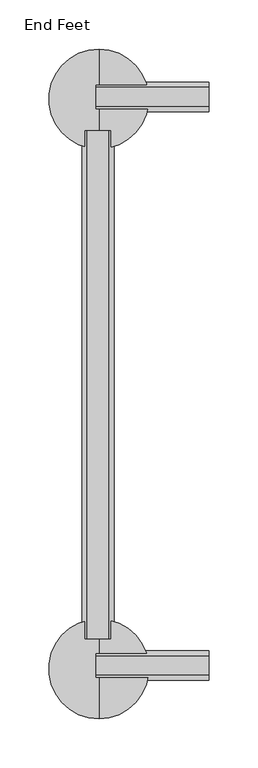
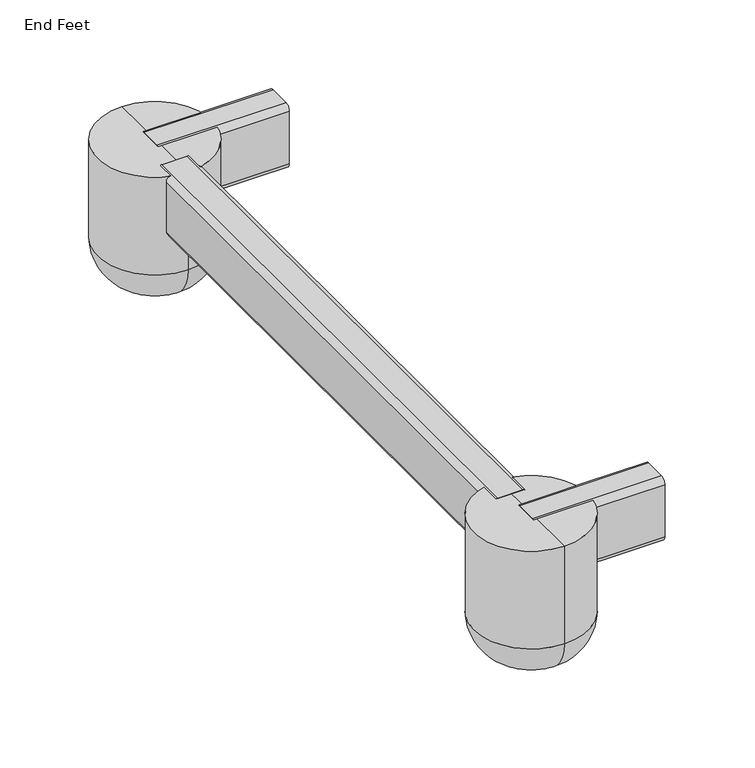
"""IFC4 building model written with IfcOpenShell, lengths in millimetres: furniture geometry, Coalesse_AM_Ensemble_Chaise_EndFeet : End Feet."""

from ifc_helpers import new_model, si_unit, point, frame, frame_2d, origin, place, context, project, spatial, polyline, circle_curve, ellipse_curve, trimmed, segment, composite_curve, outline, extrude, source, transform, mapped, element, save
from ifc_brep_helpers import plane_surface, cylinder_surface, revolved_surface, advanced_brep


def end_feet_1759f682(model_context):
    return source(origin(), model_context, "Body", "SolidModel", [
        extrude(outline(composite_curve([segment(polyline([(108.865872, 130.0907271), (128.9876575, 130.0907271)]), True, "CONTINUOUS"), segment(trimmed(circle_curve(frame_2d((128.9876575, 125.0107271)), 5.08), [point((128.9876575, 130.0907271))], [point((134.0676575, 125.0107271))], False, "CARTESIAN"), True, "CONTINUOUS"), segment(polyline([(134.0676575, 125.0107271), (134.0676575, 75.5475648)]), True, "CONTINUOUS"), segment(trimmed(circle_curve(frame_2d((129.0980339, 75.5475648)), 4.9696236), [point((134.0676575, 75.5475648))], [point((129.0980339, 70.5779413))], False, "CARTESIAN"), True, "CONTINUOUS"), segment(polyline([(129.0980339, 70.5779413), (108.865872, 70.5779413)]), True, "CONTINUOUS"), segment(trimmed(circle_curve(frame_2d((108.865872, 75.6579413)), 5.08), [point((108.865872, 70.5779413))], [point((103.785872, 75.6579413))], False, "CARTESIAN"), True, "CONTINUOUS"), segment(polyline([(103.785872, 75.6579413), (103.785872, 125.0107271)]), True, "CONTINUOUS"), segment(trimmed(circle_curve(frame_2d((108.865872, 125.0107271)), 5.08), [point((103.785872, 125.0107271))], [point((108.865872, 130.0907271))], False, "CARTESIAN"), True, "CONTINUOUS")], self_intersect=False)), frame((88.0572759, 0.0, 0.0), z_axis=(1.0, 0.0, 0.0), x_axis=(0.0, 1.0, 0.0)), (0.0, 0.0, 1.0), 115.1427241),
        extrude(outline(composite_curve([segment(polyline([(688.6735965, 130.0907271), (708.795382, 130.0907271)]), True, "CONTINUOUS"), segment(trimmed(circle_curve(frame_2d((708.795382, 125.0107271)), 5.08), [point((708.795382, 130.0907271))], [point((713.875382, 125.0107271))], False, "CARTESIAN"), True, "CONTINUOUS"), segment(polyline([(713.875382, 125.0107271), (713.875382, 75.5475648)]), True, "CONTINUOUS"), segment(trimmed(circle_curve(frame_2d((708.9057584, 75.5475648)), 4.9696236), [point((713.875382, 75.5475648))], [point((708.9057584, 70.5779413))], False, "CARTESIAN"), True, "CONTINUOUS"), segment(polyline([(708.9057584, 70.5779413), (688.6735965, 70.5779413)]), True, "CONTINUOUS"), segment(trimmed(circle_curve(frame_2d((688.6735965, 75.6579413)), 5.08), [point((688.6735965, 70.5779413))], [point((683.5935965, 75.6579413))], False, "CARTESIAN"), True, "CONTINUOUS"), segment(polyline([(683.5935965, 75.6579413), (683.5935965, 125.0107271)]), True, "CONTINUOUS"), segment(trimmed(circle_curve(frame_2d((688.6735965, 125.0107271)), 5.08), [point((683.5935965, 125.0107271))], [point((688.6735965, 130.0907271))], False, "CARTESIAN"), True, "CONTINUOUS")], self_intersect=False)), frame((88.0572759, 0.0, 0.0), z_axis=(1.0, 0.0, 0.0), x_axis=(0.0, 1.0, 0.0)), (0.0, 0.0, 1.0), 115.1427241),
        extrude(outline(composite_curve([segment(polyline([(73.0866867, 78.711375), (73.0866867, 101.0575274)]), True, "CONTINUOUS"), segment(trimmed(circle_curve(frame_2d((78.1666867, 101.0575274)), 5.08), [point((73.0866867, 101.0575274))], [point((78.1666867, 106.1375274))], False, "CARTESIAN"), True, "CONTINUOUS"), segment(polyline([(78.1666867, 106.1375274), (125.0107271, 106.1375274)]), True, "CONTINUOUS"), segment(trimmed(circle_curve(frame_2d((125.0107271, 101.0575274)), 5.08), [point((125.0107271, 106.1375274))], [point((130.0907271, 101.0575274))], False, "CARTESIAN"), True, "CONTINUOUS"), segment(polyline([(130.0907271, 101.0575274), (130.0907271, 78.711375)]), True, "CONTINUOUS"), segment(trimmed(circle_curve(frame_2d((125.0107271, 78.711375)), 5.08), [point((130.0907271, 78.711375))], [point((125.0107271, 73.631375))], False, "CARTESIAN"), True, "CONTINUOUS"), segment(polyline([(125.0107271, 73.631375), (78.1666867, 73.631375)]), True, "CONTINUOUS"), segment(trimmed(circle_curve(frame_2d((78.1666867, 78.711375)), 5.08), [point((78.1666867, 73.631375))], [point((73.0866867, 78.711375))], False, "CARTESIAN"), True, "CONTINUOUS")], self_intersect=False)), frame((0.0, 146.0852096, 0.0), z_axis=(0.0, 1.0, 0.0), x_axis=(0.0, 0.0, 1.0)), (0.0, 0.0, 1.0), 518.3433707),
        advanced_brep(
        [(90.839512, 747.4877706, 130.0907271), (90.839512, 645.5490367, 130.0907271), (90.839512, 696.5184037, 130.0907271), (90.839512, 747.4877706, 38.1), (90.839512, 645.5490367, 38.1), (90.839512, 709.3877706, 0.0), (90.839512, 683.6490367, 0.0), (90.839512, 696.5184037, 0.0)],
        [
            (0, 1, circle_curve(frame((90.839512, 696.5184037, 130.0907271), z_axis=(0.0, 0.0, 1.0), x_axis=(0.0, -1.0, 0.0)), 50.969367)),
            (1, 2),
            (2, 0),
            (1, 0, circle_curve(frame((90.839512, 696.5184037, 130.0907271), z_axis=(0.0, 0.0, 1.0), x_axis=(0.0, -1.0, 0.0)), 50.969367)),
            (3, 4, circle_curve(frame((90.839512, 696.5184037, 38.1), z_axis=(0.0, 0.0, 1.0), x_axis=(0.0, -1.0, 0.0)), 50.969367)),
            (4, 1),
            (0, 3),
            (4, 3, circle_curve(frame((90.839512, 696.5184037, 38.1), z_axis=(0.0, 0.0, 1.0), x_axis=(0.0, -1.0, 0.0)), 50.969367)),
            (5, 6, circle_curve(frame((90.839512, 696.5184037, 0.0), z_axis=(0.0, 0.0, 1.0), x_axis=(0.0, -1.0, 0.0)), 12.869367)),
            (6, 4, circle_curve(frame((90.839512, 683.6490367, 38.1), z_axis=(-1.0, 0.0, 0.0), x_axis=(0.0, -1.0, 0.0)), 38.1)),
            (3, 5, circle_curve(frame((90.839512, 709.3877706, 38.1), z_axis=(-1.0, 0.0, 0.0), x_axis=(0.0, 1.0, 0.0)), 38.1)),
            (6, 5, circle_curve(frame((90.839512, 696.5184037, 0.0), z_axis=(0.0, 0.0, 1.0), x_axis=(0.0, -1.0, 0.0)), 12.869367)),
            (7, 6),
            (5, 7),
        ],
        [
            plane_surface(frame((90.839512, 696.5184037, 130.0907271), z_axis=(0.0, 0.0, 1.0), x_axis=(0.0, -1.0, 0.0))),
            cylinder_surface(frame((90.839512, 696.5184037, 130.0907271), z_axis=(0.0, 0.0, -1.0), x_axis=(0.0, -1.0, 0.0)), 50.969367),
            revolved_surface(trimmed(ellipse_curve(frame((90.839512, 683.6490367, 38.1), z_axis=(1.0, 0.0, 0.0), x_axis=(0.0, -1.0, 0.0)), 38.1, 38.1), [point((90.839512, 645.5490367, 38.1))], [point((90.839512, 683.6490367, 0.0))], True, "CARTESIAN"), (90.839512, 696.5184037, 130.0907271), (0.0, 0.0, -1.0)),
            plane_surface(frame((90.839512, 696.5184037, 0.0), z_axis=(0.0, 0.0, -1.0), x_axis=(0.0, -1.0, 0.0))),
        ],
        [
            (0, [[1, 2, 3]]),
            (0, [[4, -3, -2]]),
            (1, [[5, 6, -1, 7]]),
            (1, [[8, -7, -4, -6]]),
            (2, [[9, 10, -5, 11]]),
            (2, [[12, -11, -8, -10]]),
            (3, [[13, -9, 14]]),
            (3, [[-14, -12, -13]]),
        ],
    ),
        advanced_brep(
        [(90.839512, 166.4627706, 130.0907271), (90.839512, 64.5240367, 130.0907271), (90.839512, 115.4934037, 130.0907271), (90.839512, 166.4627706, 38.1), (90.839512, 64.5240367, 38.1), (90.839512, 128.3627706, 0.0), (90.839512, 102.6240367, 0.0), (90.839512, 115.4934037, 0.0)],
        [
            (0, 1, circle_curve(frame((90.839512, 115.4934037, 130.0907271), z_axis=(0.0, 0.0, 1.0), x_axis=(0.0, -1.0, 0.0)), 50.969367)),
            (1, 2),
            (2, 0),
            (1, 0, circle_curve(frame((90.839512, 115.4934037, 130.0907271), z_axis=(0.0, 0.0, 1.0), x_axis=(0.0, -1.0, 0.0)), 50.969367)),
            (3, 4, circle_curve(frame((90.839512, 115.4934037, 38.1), z_axis=(0.0, 0.0, 1.0), x_axis=(0.0, -1.0, 0.0)), 50.969367)),
            (4, 1),
            (0, 3),
            (4, 3, circle_curve(frame((90.839512, 115.4934037, 38.1), z_axis=(0.0, 0.0, 1.0), x_axis=(0.0, -1.0, 0.0)), 50.969367)),
            (5, 6, circle_curve(frame((90.839512, 115.4934037, 0.0), z_axis=(0.0, 0.0, 1.0), x_axis=(0.0, -1.0, 0.0)), 12.869367)),
            (6, 4, circle_curve(frame((90.839512, 102.6240367, 38.1), z_axis=(-1.0, 0.0, 0.0), x_axis=(0.0, -1.0, 0.0)), 38.1)),
            (3, 5, circle_curve(frame((90.839512, 128.3627706, 38.1), z_axis=(-1.0, 0.0, 0.0), x_axis=(0.0, 1.0, 0.0)), 38.1)),
            (6, 5, circle_curve(frame((90.839512, 115.4934037, 0.0), z_axis=(0.0, 0.0, 1.0), x_axis=(0.0, -1.0, 0.0)), 12.869367)),
            (7, 6),
            (5, 7),
        ],
        [
            plane_surface(frame((90.839512, 115.4934037, 130.0907271), z_axis=(0.0, 0.0, 1.0), x_axis=(0.0, -1.0, 0.0))),
            cylinder_surface(frame((90.839512, 115.4934037, 130.0907271), z_axis=(0.0, 0.0, -1.0), x_axis=(0.0, -1.0, 0.0)), 50.969367),
            revolved_surface(trimmed(ellipse_curve(frame((90.839512, 102.6240367, 38.1), z_axis=(1.0, 0.0, 0.0), x_axis=(0.0, -1.0, 0.0)), 38.1, 38.1), [point((90.839512, 64.5240367, 38.1))], [point((90.839512, 102.6240367, 0.0))], True, "CARTESIAN"), (90.839512, 115.4934037, 130.0907271), (0.0, 0.0, -1.0)),
            plane_surface(frame((90.839512, 115.4934037, 0.0), z_axis=(0.0, 0.0, -1.0), x_axis=(0.0, -1.0, 0.0))),
        ],
        [
            (0, [[1, 2, 3]]),
            (0, [[4, -3, -2]]),
            (1, [[5, 6, -1, 7]]),
            (1, [[8, -7, -4, -6]]),
            (2, [[9, 10, -5, 11]]),
            (2, [[12, -11, -8, -10]]),
            (3, [[13, -9, 14]]),
            (3, [[-14, -12, -13]]),
        ],
    ),
    ])


if __name__ == "__main__":
    model = new_model("IFC4")
    model_context = context("Model", 3, world=origin())
    ifc_project = project(units=[si_unit("LENGTHUNIT", "METRE", prefix="MILLI")], contexts=[model_context])
    site = spatial("IfcSite", under=ifc_project)
    building = spatial("IfcBuilding", under=site)
    placement = place(None, origin())
    end_feet_shape = end_feet_1759f682(model_context)
    element("IfcFurniture", 1, ObjectType="Coalesse_AM_Ensemble_Chaise_EndFeet : End Feet", at=placement, inside=building, context=model_context, shape_type="MappedRepresentation", body=[
        mapped(end_feet_shape, transform((0.0, 0.0, 0.0), x_axis=(1.0, 0.0, 0.0), y_axis=(0.0, 1.0, 0.0), z_axis=(0.0, 0.0, 1.0))),
    ])
    save(model, "model.ifc")
